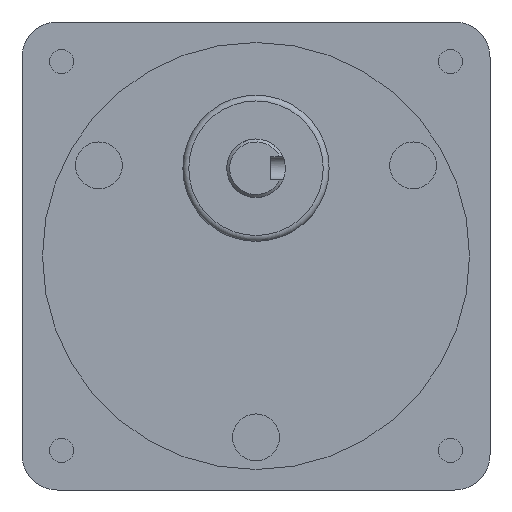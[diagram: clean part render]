
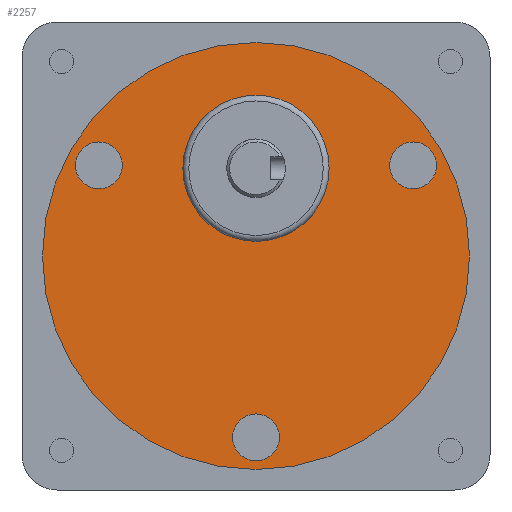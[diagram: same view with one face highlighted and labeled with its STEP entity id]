
A CAD part, front view. The second image highlights one B-rep face of the part: STEP entity #2257.
In plain terms, the highlighted planar face has unit normal (0, -1, 0).
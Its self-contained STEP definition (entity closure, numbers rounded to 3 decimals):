
#81=FACE_BOUND('',#449,.T.);
#82=FACE_BOUND('',#450,.T.);
#83=FACE_BOUND('',#451,.T.);
#156=PLANE('',#2629);
#281=FACE_OUTER_BOUND('',#448,.T.);
#448=EDGE_LOOP('',(#1915));
#449=EDGE_LOOP('',(#1916));
#450=EDGE_LOOP('',(#1917));
#451=EDGE_LOOP('',(#1918));
#917=CIRCLE('',#2615,4.);
#919=CIRCLE('',#2619,4.);
#921=CIRCLE('',#2623,4.);
#924=CIRCLE('',#2628,36.5);
#1101=VERTEX_POINT('',#3915);
#1103=VERTEX_POINT('',#3922);
#1105=VERTEX_POINT('',#3929);
#1108=VERTEX_POINT('',#3938);
#1376=EDGE_CURVE('',#1101,#1101,#917,.T.);
#1379=EDGE_CURVE('',#1103,#1103,#919,.T.);
#1382=EDGE_CURVE('',#1105,#1105,#921,.T.);
#1387=EDGE_CURVE('',#1108,#1108,#924,.T.);
#1915=ORIENTED_EDGE('',*,*,#1387,.T.);
#1916=ORIENTED_EDGE('',*,*,#1376,.T.);
#1917=ORIENTED_EDGE('',*,*,#1379,.T.);
#1918=ORIENTED_EDGE('',*,*,#1382,.T.);
#2257=ADVANCED_FACE('',(#281,#81,#82,#83),#156,.F.);
#2615=AXIS2_PLACEMENT_3D('',#3916,#3228,#3229);
#2619=AXIS2_PLACEMENT_3D('',#3923,#3237,#3238);
#2623=AXIS2_PLACEMENT_3D('',#3930,#3246,#3247);
#2628=AXIS2_PLACEMENT_3D('',#3940,#3258,#3259);
#2629=AXIS2_PLACEMENT_3D('',#3941,#3260,#3261);
#3228=DIRECTION('center_axis',(0.,1.,0.));
#3229=DIRECTION('ref_axis',(0.5,0.,-0.866));
#3237=DIRECTION('center_axis',(0.,1.,0.));
#3238=DIRECTION('ref_axis',(0.5,0.,0.866));
#3246=DIRECTION('center_axis',(0.,1.,0.));
#3247=DIRECTION('ref_axis',(-1.,0.,0.));
#3258=DIRECTION('center_axis',(0.,-1.,0.));
#3259=DIRECTION('ref_axis',(-1.,0.,0.));
#3260=DIRECTION('center_axis',(0.,1.,0.));
#3261=DIRECTION('ref_axis',(0.,0.,1.));
#3915=CARTESIAN_POINT('',(24.847,0.5,18.964));
#3916=CARTESIAN_POINT('Origin',(26.847,0.5,15.5));
#3922=CARTESIAN_POINT('',(-28.847,0.5,12.036));
#3923=CARTESIAN_POINT('Origin',(-26.847,0.5,15.5));
#3929=CARTESIAN_POINT('',(4.,0.5,-31.));
#3930=CARTESIAN_POINT('Origin',(0.,0.5,-31.));
#3938=CARTESIAN_POINT('',(36.5,0.5,0.));
#3940=CARTESIAN_POINT('Origin',(0.,0.5,0.));
#3941=CARTESIAN_POINT('Origin',(0.,0.5,0.));
